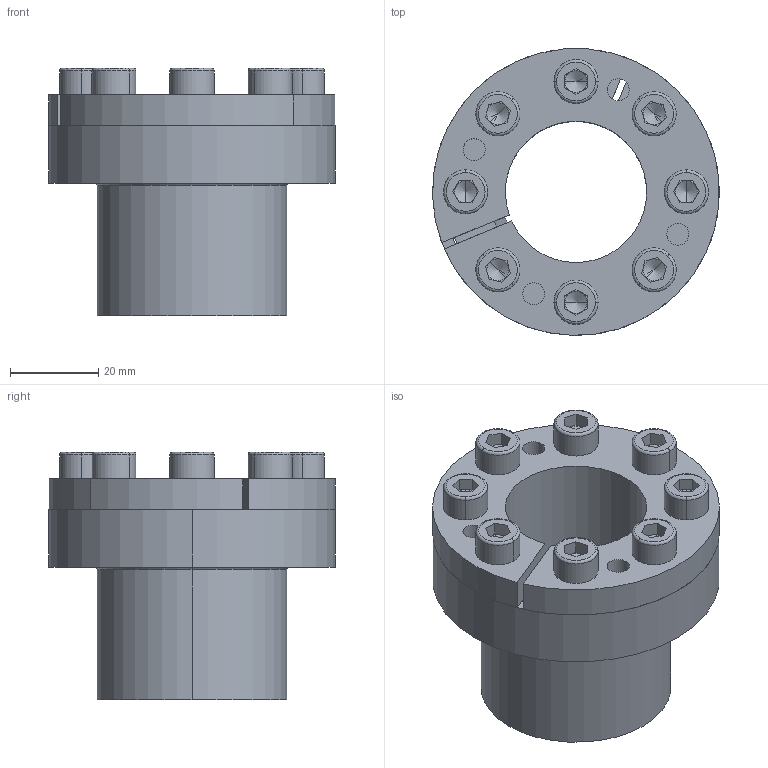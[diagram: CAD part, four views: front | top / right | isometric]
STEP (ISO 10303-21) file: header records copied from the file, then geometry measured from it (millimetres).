
FILE_DESCRIPTION (( 'STEP AP214' ), '1' );
FILE_NAME ('CONEX-B-32x43.step', '2013-04-04T12:41:48', ( 'Pc' ), ( '' ), 'SwSTEP 2.0', 'SolidWorks 2013', '' );
FILE_SCHEMA (( 'AUTOMOTIVE_DESIGN' ));
Length unit declared in the file: millimetre
Products named in the file (1): CONEX-B-32x43
Bounding box: 65 x 65 x 56.04 mm (x, y, z)
Volume: 63487.5 mm3; surface area: 42314.7 mm2
Topology: 11 solids, 11 shells, 310 faces, 734 edges, 438 vertices
Faces by surface type: plane 132, cylinder 88, torus 44, cone 38, bspline 8
Entity records: 12560 total; most frequent: DIRECTION 1674, CARTESIAN_POINT 1663, ORIENTED_EDGE 1436, EDGE_CURVE 718, AXIS2_PLACEMENT_3D 671, VERTEX_POINT 438, CIRCLE 368, EDGE_LOOP 360
